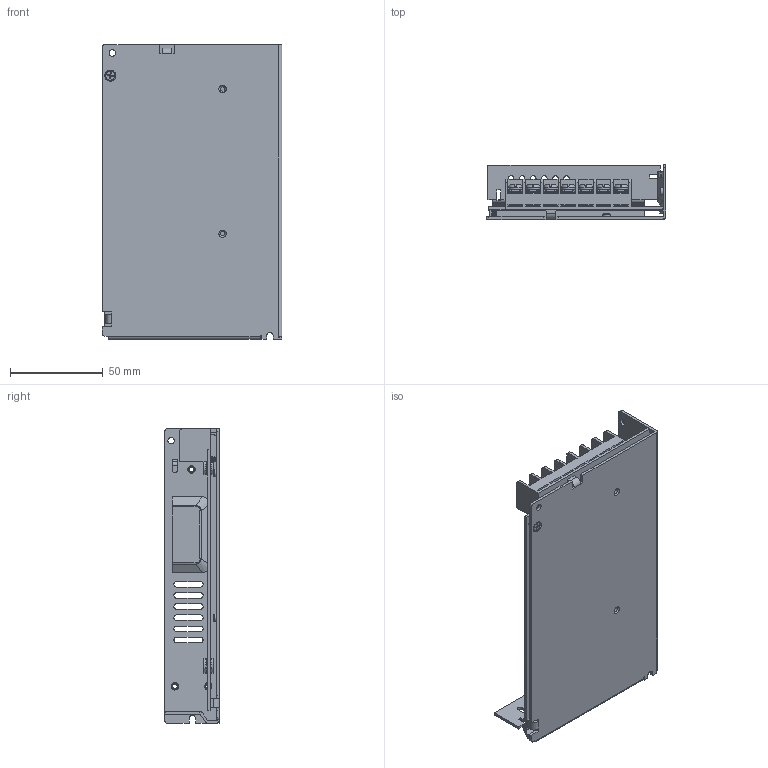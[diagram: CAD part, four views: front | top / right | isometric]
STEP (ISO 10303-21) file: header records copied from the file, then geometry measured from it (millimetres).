
FILE_DESCRIPTION(/* description */ ('STEP AP242 Edition 2','CAx-IF Rec.Pracs.---Representation and Presentation of Product Manufacturing Information (PMI)---4.0---2014-10-13','CAx-IF Rec.Pracs.---3D Tessellated Geometry---0.4---2014-09-14','2;1','CAx-IF Rec.Pracs.---User Defined Attributes---1.5---2016-08-15'),/* implementation_level */ '2;1');
FILE_NAME(/* name */ 'Final Build - LRS-150 (1)',/* time_stamp */ '2026-08-31T23:26:11Z',/* author */ (''),/* organization */ (''),/* preprocessor_version */ 'ST-DEVELOPER v20',/* originating_system */ 'ONSHAPE BY PTC INC, 1.220',/* authorisation */ ' ');
FILE_SCHEMA (('AP242_MANAGED_MODEL_BASED_3D_ENGINEERING_MIM_LF { 1 0 10303 442 3 1 4 }'));
Length unit declared in the file: metre
Products named in the file (1): LRS-150
Bounding box: 97 x 29.5 x 159 mm (x, y, z)
Volume: 67380 mm3; surface area: 84568 mm2
Topology: 1 solids, 1 shells, 1333 faces, 3489 edges, 2155 vertices
Faces by surface type: plane 757, cylinder 364, bspline 103, sphere 70, cone 21, torus 18
Full cylindrical faces by diameter (mm): 2.5 x5, 3 x1, 3.5 x3, 4 x19, 4.8 x1, 7.4 x7
Entity records: 50872 total; most frequent: CARTESIAN_POINT 11495, ORIENTED_EDGE 6792, DIRECTION 6344, EDGE_CURVE 3396, LINE 2316, VECTOR 2316, VERTEX_POINT 2126, AXIS2_PLACEMENT_3D 2014
